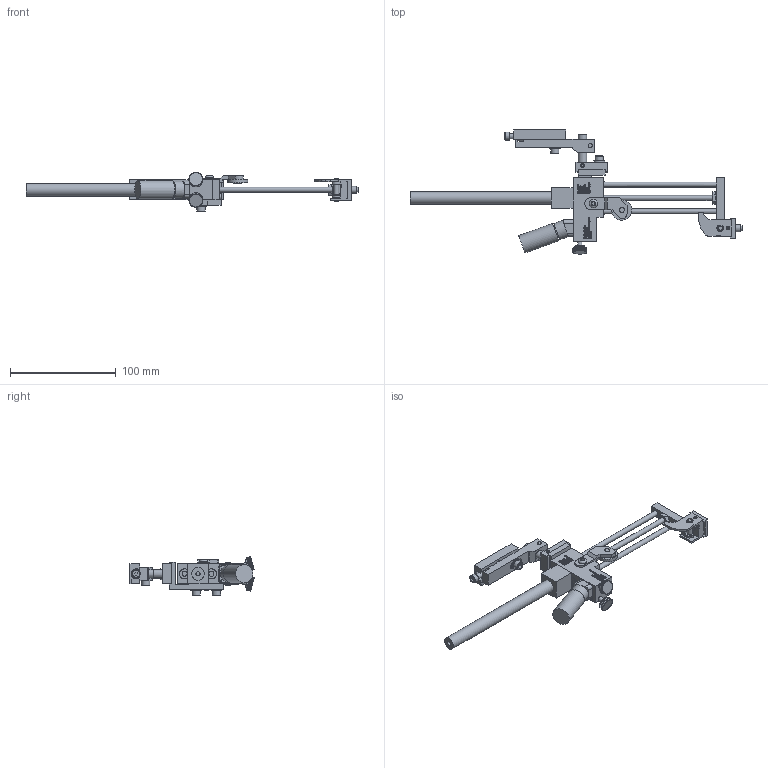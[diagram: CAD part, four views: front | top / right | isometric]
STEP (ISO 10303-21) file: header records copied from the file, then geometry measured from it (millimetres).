
FILE_DESCRIPTION((''),'2;1');
FILE_NAME('C:\Documents and Settings\Ron\My Documents\Inventor\Sprinter Drawing\Machines in Inventor\Model 44\Dot\3-sixteenth\Ext Str\E2\Brkt\Ext\Model 44 E2 .187 dia dot Ext w brkt.stp','2009-01-23T09:42:23',('Ron'),(''),'Autodesk Inventor 2008','Autodesk Inventor 2008','');
FILE_SCHEMA(('AUTOMOTIVE_DESIGN { 1 0 10303 214 1 1 1 1 }'));
Length unit declared in the file: inch
Products named in the file (1): Model 44 E2 .187 dia dot Ext w brkt
Bounding box: 313.43 x 117.12 x 36.82 mm (x, y, z)
Volume: 112754.2 mm3; surface area: 55103.3 mm2
Topology: 27 solids, 27 shells, 6213 faces, 15423 edges, 9541 vertices
Faces by surface type: plane 4368, bspline 1320, cylinder 471, cone 48, torus 6
Full cylindrical faces by diameter (mm): 3.175 x4, 3.302 x1, 3.962 x1, 4.064 x7, 4.166 x1, 4.699 x1, 4.75 x5, 4.775 x1, 4.826 x7, 5.144 x1, 5.156 x5, 5.207 x2, 5.41 x2, 6.096 x1, 6.274 x2, 6.68 x1, 7.239 x1, 7.62 x1, 7.925 x7, 7.938 x1, 8.128 x1, 9.017 x1, 9.525 x2, 10.312 x4, 10.922 x1, 11.036 x1, 11.938 x2, 12.522 x1, 14.478 x1, 16.256 x1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
Entity records: 197899 total; most frequent: CARTESIAN_POINT 54173, ORIENTED_EDGE 30406, DIRECTION 23641, EDGE_CURVE 15203, VECTOR 11399, LINE 11399, VERTEX_POINT 9478, EDGE_LOOP 6775
